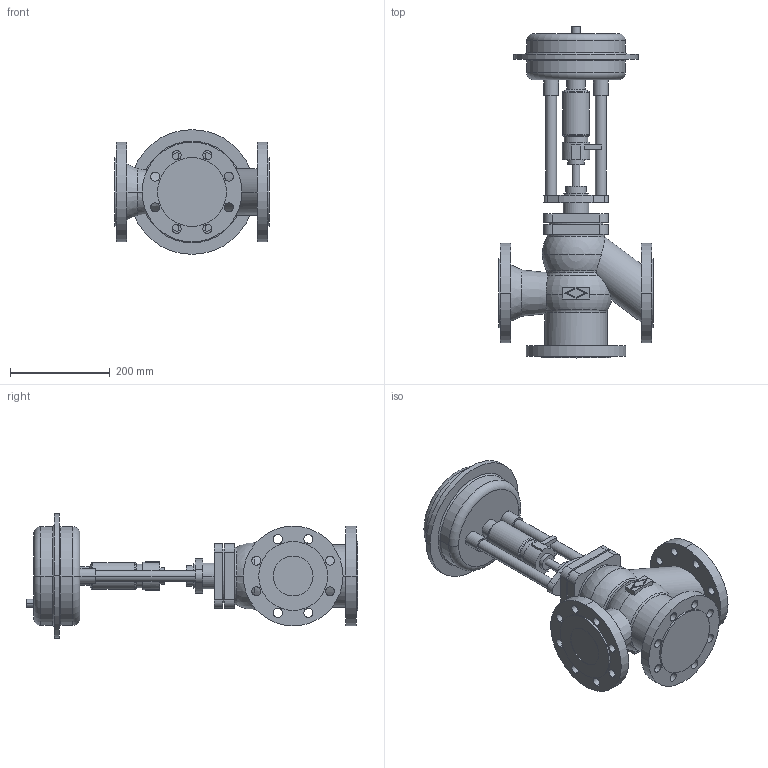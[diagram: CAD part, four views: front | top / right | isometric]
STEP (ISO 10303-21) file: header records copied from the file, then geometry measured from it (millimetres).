
FILE_DESCRIPTION(('OneSpaceDesigner STEP Export'),'2;1');
FILE_NAME('c000000647.stp','2006-09-13T12:37:16',(''),(''),'OneSpace Designer STEP processor for AP214 (Solid Model)','OneSpace Designer 13.20A 18-Aug-2005 (C) CoCreate Software GmbH','');
FILE_SCHEMA(('AUTOMOTIVE_DESIGN { 1 0 10303 214 1 1 1 1 }'));
Length unit declared in the file: millimetre
Products named in the file (2): 1; 2
Bounding box: 310 x 665.5 x 250 mm (x, y, z)
Volume: 10407191.8 mm3; surface area: 642682.5 mm2
Topology: 2 solids, 2 shells, 237 faces, 593 edges, 384 vertices
Faces by surface type: cylinder 118, plane 81, torus 26, cone 8, sphere 4
Entity records: 6461 total; most frequent: CARTESIAN_POINT 1282, ORIENTED_EDGE 1178, DIRECTION 926, EDGE_CURVE 589, VERTEX_POINT 384, AXIS2_PLACEMENT_3D 341, EDGE_LOOP 313, VECTOR 244
